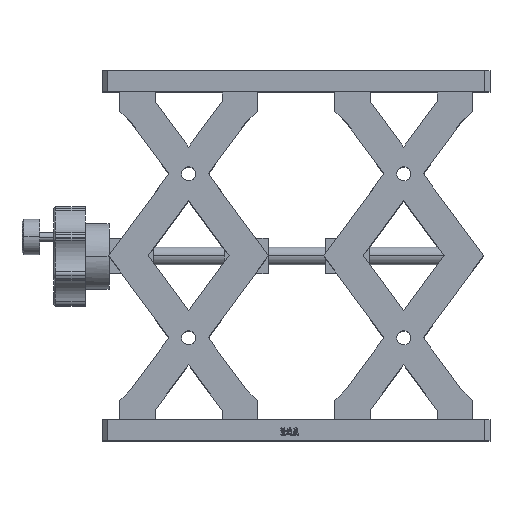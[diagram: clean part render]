
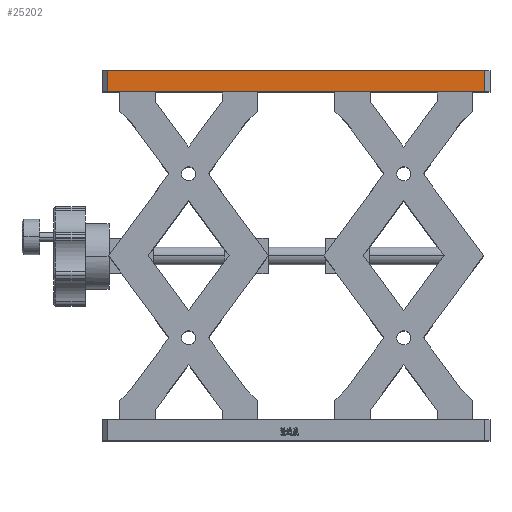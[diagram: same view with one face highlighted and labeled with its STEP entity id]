
A CAD part, top view. The second image highlights one B-rep face of the part: STEP entity #25202.
In plain terms, the highlighted planar face has unit normal (0, 0, 1) as drawn and (0, 1, 0) by its records, which use the part's own axes.
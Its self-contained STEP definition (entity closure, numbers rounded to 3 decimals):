
#1612 = VERTEX_POINT ( 'NONE', #31729 ) ;
#1691 = LINE ( 'NONE', #32408, #13359 ) ;
#3498 = EDGE_CURVE ( 'NONE', #15394, #16234, #3970, .T. ) ;
#3681 = DIRECTION ( 'NONE',  ( -1., 0., 0. ) ) ;
#3970 = LINE ( 'NONE', #31316, #10029 ) ;
#4133 = ORIENTED_EDGE ( 'NONE', *, *, #31049, .F. ) ;
#4271 = ORIENTED_EDGE ( 'NONE', *, *, #3498, .T. ) ;
#4470 = CARTESIAN_POINT ( 'NONE',  ( -110., 70., 12. ) ) ;
#5128 = DIRECTION ( 'NONE',  ( 0., 0., -1. ) ) ;
#5642 = ORIENTED_EDGE ( 'NONE', *, *, #18074, .T. ) ;
#10029 = VECTOR ( 'NONE', #3681, 1000. ) ;
#10406 = EDGE_LOOP ( 'NONE', ( #4133, #35902, #4271, #5642 ) ) ;
#11333 = FACE_OUTER_BOUND ( 'NONE', #10406, .T. ) ;
#11430 = AXIS2_PLACEMENT_3D ( 'NONE', #4470, #23860, #15266 ) ;
#12625 = PLANE ( 'NONE',  #11430 ) ;
#13359 = VECTOR ( 'NONE', #5128, 1000. ) ;
#13877 = EDGE_CURVE ( 'NONE', #1612, #15394, #1691, .T. ) ;
#15266 = DIRECTION ( 'NONE',  ( 0., 0., -1. ) ) ;
#15394 = VERTEX_POINT ( 'NONE', #34871 ) ;
#15523 = CARTESIAN_POINT ( 'NONE',  ( -107., 70., 0. ) ) ;
#16234 = VERTEX_POINT ( 'NONE', #15523 ) ;
#18074 = EDGE_CURVE ( 'NONE', #16234, #34333, #23965, .T. ) ;
#20643 = CARTESIAN_POINT ( 'NONE',  ( -107., 70., 12. ) ) ;
#21616 = DIRECTION ( 'NONE',  ( -1., 0., 0. ) ) ;
#22903 = LINE ( 'NONE', #26836, #28552 ) ;
#23860 = DIRECTION ( 'NONE',  ( 0., -1., 0. ) ) ;
#23965 = LINE ( 'NONE', #20643, #25249 ) ;
#25147 = CARTESIAN_POINT ( 'NONE',  ( -107., 70., 12. ) ) ;
#25202 = ADVANCED_FACE ( 'NONE', ( #11333 ), #12625, .F. ) ;
#25249 = VECTOR ( 'NONE', #32071, 1000. ) ;
#26836 = CARTESIAN_POINT ( 'NONE',  ( -110., 70., 12. ) ) ;
#28552 = VECTOR ( 'NONE', #21616, 1000. ) ;
#31049 = EDGE_CURVE ( 'NONE', #1612, #34333, #22903, .T. ) ;
#31316 = CARTESIAN_POINT ( 'NONE',  ( -110., 70., 0. ) ) ;
#31729 = CARTESIAN_POINT ( 'NONE',  ( 107., 70., 12. ) ) ;
#32071 = DIRECTION ( 'NONE',  ( 0., 0., 1. ) ) ;
#32408 = CARTESIAN_POINT ( 'NONE',  ( 107., 70., 12. ) ) ;
#34333 = VERTEX_POINT ( 'NONE', #25147 ) ;
#34871 = CARTESIAN_POINT ( 'NONE',  ( 107., 70., 0. ) ) ;
#35902 = ORIENTED_EDGE ( 'NONE', *, *, #13877, .T. ) ;
